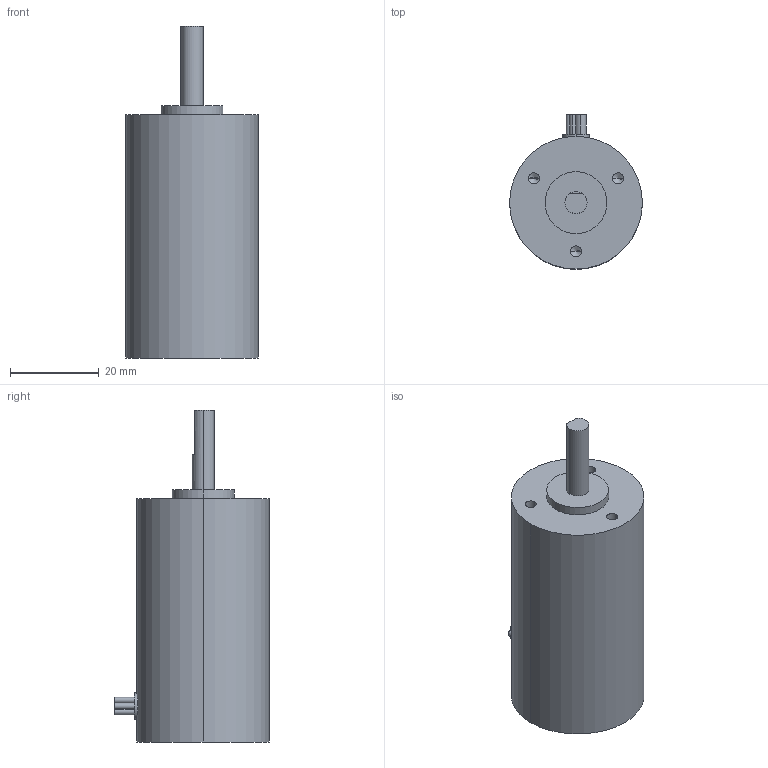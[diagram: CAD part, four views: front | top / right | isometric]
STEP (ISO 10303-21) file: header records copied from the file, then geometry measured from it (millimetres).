
FILE_DESCRIPTION (( 'STEP AP214' ), '1' );
FILE_NAME ('BD-3055.STEP', '2024-10-25T11:32:10', ( '' ), ( '' ), 'SwSTEP 2.0', 'SolidWorks 2024', '' );
FILE_SCHEMA (( 'AUTOMOTIVE_DESIGN' ));
Length unit declared in the file: millimetre
Products named in the file (1): BD-3055
Bounding box: 30 x 35 x 75 mm (x, y, z)
Volume: 39524.3 mm3; surface area: 7168.6 mm2
Topology: 1 solids, 1 shells, 39 faces, 84 edges, 51 vertices
Faces by surface type: cylinder 22, plane 11, cone 6
Entity records: 1115 total; most frequent: CARTESIAN_POINT 233, DIRECTION 200, ORIENTED_EDGE 156, AXIS2_PLACEMENT_3D 84, EDGE_CURVE 78, VERTEX_POINT 51, EDGE_LOOP 49, CIRCLE 44
